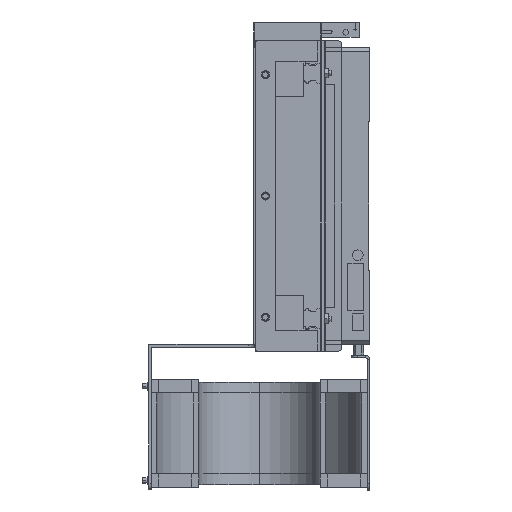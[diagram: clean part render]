
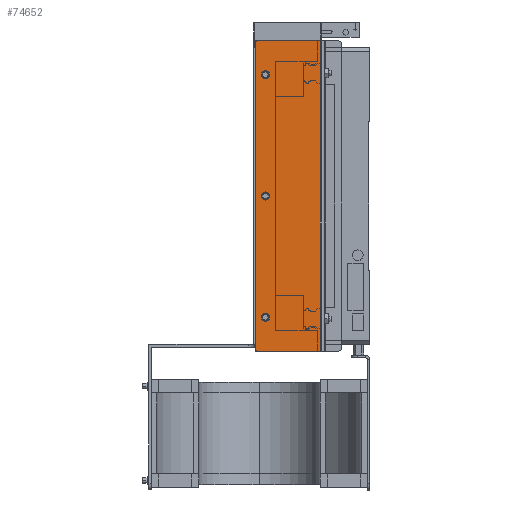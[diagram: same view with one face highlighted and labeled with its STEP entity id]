
A CAD part, left-side view. The second image highlights one B-rep face of the part: STEP entity #74652.
In plain terms, the highlighted planar face has unit normal (-1, 0, 0).
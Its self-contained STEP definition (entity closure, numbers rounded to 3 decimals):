
#798 = VERTEX_POINT ( 'NONE', #33650 ) ;
#1096 = CARTESIAN_POINT ( 'NONE',  ( -1082., 34., 115. ) ) ;
#1294 = FACE_BOUND ( 'NONE', #48361, .T. ) ;
#1703 = CARTESIAN_POINT ( 'NONE',  ( -1082., 77.5, 90. ) ) ;
#2833 = VERTEX_POINT ( 'NONE', #18067 ) ;
#2944 = CARTESIAN_POINT ( 'NONE',  ( -1082., 77.5, -93. ) ) ;
#3102 = CARTESIAN_POINT ( 'NONE',  ( -1082., 83., -113. ) ) ;
#3771 = EDGE_LOOP ( 'NONE', ( #70954, #73476, #31892, #63450, #69268, #54487 ) ) ;
#5346 = AXIS2_PLACEMENT_3D ( 'NONE', #17392, #64843, #29307 ) ;
#5468 = EDGE_CURVE ( 'NONE', #11554, #8360, #46747, .T. ) ;
#5621 = EDGE_CURVE ( 'NONE', #2833, #62026, #59771, .T. ) ;
#8360 = VERTEX_POINT ( 'NONE', #16497 ) ;
#9030 = DIRECTION ( 'NONE',  ( -1., 0., 0. ) ) ;
#10784 = CARTESIAN_POINT ( 'NONE',  ( -1082., 77.5, -87. ) ) ;
#11554 = VERTEX_POINT ( 'NONE', #52184 ) ;
#11678 = AXIS2_PLACEMENT_3D ( 'NONE', #31500, #23841, #54873 ) ;
#12492 = DIRECTION ( 'NONE',  ( 0., 1., 0. ) ) ;
#13119 = EDGE_CURVE ( 'NONE', #14386, #58829, #14368, .T. ) ;
#13189 = CARTESIAN_POINT ( 'NONE',  ( -1082., 77.5, -90. ) ) ;
#13581 = DIRECTION ( 'NONE',  ( 0., 0., 1. ) ) ;
#14368 = LINE ( 'NONE', #37078, #37603 ) ;
#14386 = VERTEX_POINT ( 'NONE', #30947 ) ;
#15637 = CARTESIAN_POINT ( 'NONE',  ( -1082., 83., 113. ) ) ;
#15769 = ORIENTED_EDGE ( 'NONE', *, *, #71747, .F. ) ;
#16358 = AXIS2_PLACEMENT_3D ( 'NONE', #1703, #48996, #13581 ) ;
#16497 = CARTESIAN_POINT ( 'NONE',  ( -1082., 77.5, 93. ) ) ;
#16716 = EDGE_LOOP ( 'NONE', ( #32530, #69878 ) ) ;
#17182 = CIRCLE ( 'NONE', #5346, 3. ) ;
#17392 = CARTESIAN_POINT ( 'NONE',  ( -1082., 77.5, 0. ) ) ;
#17504 = CIRCLE ( 'NONE', #37196, 3. ) ;
#18067 = CARTESIAN_POINT ( 'NONE',  ( -1082., 85., -113. ) ) ;
#19106 = DIRECTION ( 'NONE',  ( 0., 0., 1. ) ) ;
#20769 = DIRECTION ( 'NONE',  ( 0., 0., -1. ) ) ;
#23841 = DIRECTION ( 'NONE',  ( -1., 0., 0. ) ) ;
#24431 = EDGE_CURVE ( 'NONE', #25279, #62026, #26445, .T. ) ;
#25279 = VERTEX_POINT ( 'NONE', #38814 ) ;
#25688 = ORIENTED_EDGE ( 'NONE', *, *, #5468, .F. ) ;
#26138 = EDGE_CURVE ( 'NONE', #8360, #11554, #69483, .T. ) ;
#26445 = LINE ( 'NONE', #74576, #59880 ) ;
#26625 = CARTESIAN_POINT ( 'NONE',  ( -1082., 83., 115. ) ) ;
#27069 = DIRECTION ( 'NONE',  ( -1., 0., 0. ) ) ;
#29307 = DIRECTION ( 'NONE',  ( 0., 0., 1. ) ) ;
#29680 = VERTEX_POINT ( 'NONE', #2944 ) ;
#30230 = DIRECTION ( 'NONE',  ( -1., 0., 0. ) ) ;
#30947 = CARTESIAN_POINT ( 'NONE',  ( -1082., 37., 115. ) ) ;
#31252 = EDGE_CURVE ( 'NONE', #58829, #798, #70212, .T. ) ;
#31388 = CARTESIAN_POINT ( 'NONE',  ( -1082., 77.5, -3. ) ) ;
#31500 = CARTESIAN_POINT ( 'NONE',  ( -1082., 77.5, 90. ) ) ;
#31892 = ORIENTED_EDGE ( 'NONE', *, *, #41765, .T. ) ;
#32530 = ORIENTED_EDGE ( 'NONE', *, *, #57748, .F. ) ;
#33069 = DIRECTION ( 'NONE',  ( 0., 0., 1. ) ) ;
#33550 = DIRECTION ( 'NONE',  ( 0., 0., 1. ) ) ;
#33650 = CARTESIAN_POINT ( 'NONE',  ( -1082., 85., 113. ) ) ;
#33896 = DIRECTION ( 'NONE',  ( -1., 0., 0. ) ) ;
#34915 = AXIS2_PLACEMENT_3D ( 'NONE', #63411, #33896, #57726 ) ;
#36238 = CARTESIAN_POINT ( 'NONE',  ( -1082., 85., 115. ) ) ;
#36793 = DIRECTION ( 'NONE',  ( 0., 0., 1. ) ) ;
#37078 = CARTESIAN_POINT ( 'NONE',  ( -1082., 34., 115. ) ) ;
#37196 = AXIS2_PLACEMENT_3D ( 'NONE', #13189, #30230, #19106 ) ;
#37603 = VECTOR ( 'NONE', #12492, 1000. ) ;
#37839 = VERTEX_POINT ( 'NONE', #10784 ) ;
#38814 = CARTESIAN_POINT ( 'NONE',  ( -1082., 37., -115. ) ) ;
#39282 = FACE_BOUND ( 'NONE', #16716, .T. ) ;
#39393 = CARTESIAN_POINT ( 'NONE',  ( -1082., 37., 115. ) ) ;
#40016 = LINE ( 'NONE', #36238, #50185 ) ;
#41765 = EDGE_CURVE ( 'NONE', #798, #2833, #40016, .T. ) ;
#42679 = EDGE_CURVE ( 'NONE', #14386, #25279, #45597, .T. ) ;
#43342 = AXIS2_PLACEMENT_3D ( 'NONE', #3102, #9030, #50394 ) ;
#45430 = VERTEX_POINT ( 'NONE', #31388 ) ;
#45597 = LINE ( 'NONE', #39393, #61435 ) ;
#46747 = CIRCLE ( 'NONE', #11678, 3. ) ;
#47625 = CARTESIAN_POINT ( 'NONE',  ( -1082., 77.5, 3. ) ) ;
#47652 = EDGE_CURVE ( 'NONE', #37839, #29680, #17504, .T. ) ;
#48361 = EDGE_LOOP ( 'NONE', ( #25688, #57145 ) ) ;
#48996 = DIRECTION ( 'NONE',  ( -1., 0., 0. ) ) ;
#50163 = VERTEX_POINT ( 'NONE', #47625 ) ;
#50185 = VECTOR ( 'NONE', #71421, 1000. ) ;
#50394 = DIRECTION ( 'NONE',  ( 0., 0., 1. ) ) ;
#50455 = AXIS2_PLACEMENT_3D ( 'NONE', #1096, #54405, #36793 ) ;
#52184 = CARTESIAN_POINT ( 'NONE',  ( -1082., 77.5, 87. ) ) ;
#52282 = CIRCLE ( 'NONE', #34915, 3. ) ;
#52377 = EDGE_CURVE ( 'NONE', #45430, #50163, #17182, .T. ) ;
#52766 = EDGE_LOOP ( 'NONE', ( #54397, #15769 ) ) ;
#53572 = AXIS2_PLACEMENT_3D ( 'NONE', #15637, #57624, #33550 ) ;
#54397 = ORIENTED_EDGE ( 'NONE', *, *, #52377, .F. ) ;
#54405 = DIRECTION ( 'NONE',  ( -1., 0., 0. ) ) ;
#54487 = ORIENTED_EDGE ( 'NONE', *, *, #42679, .F. ) ;
#54873 = DIRECTION ( 'NONE',  ( 0., 0., 1. ) ) ;
#56673 = CARTESIAN_POINT ( 'NONE',  ( -1082., 77.5, -90. ) ) ;
#56783 = DIRECTION ( 'NONE',  ( 0., 1., 0. ) ) ;
#57145 = ORIENTED_EDGE ( 'NONE', *, *, #26138, .F. ) ;
#57624 = DIRECTION ( 'NONE',  ( -1., 0., 0. ) ) ;
#57726 = DIRECTION ( 'NONE',  ( 0., 0., 1. ) ) ;
#57748 = EDGE_CURVE ( 'NONE', #29680, #37839, #60422, .T. ) ;
#57984 = AXIS2_PLACEMENT_3D ( 'NONE', #56673, #27069, #33069 ) ;
#58829 = VERTEX_POINT ( 'NONE', #26625 ) ;
#59698 = FACE_BOUND ( 'NONE', #52766, .T. ) ;
#59771 = CIRCLE ( 'NONE', #43342, 2. ) ;
#59880 = VECTOR ( 'NONE', #56783, 1000. ) ;
#60422 = CIRCLE ( 'NONE', #57984, 3. ) ;
#60969 = CARTESIAN_POINT ( 'NONE',  ( -1082., 83., -115. ) ) ;
#61435 = VECTOR ( 'NONE', #20769, 1000. ) ;
#62026 = VERTEX_POINT ( 'NONE', #60969 ) ;
#63411 = CARTESIAN_POINT ( 'NONE',  ( -1082., 77.5, 0. ) ) ;
#63450 = ORIENTED_EDGE ( 'NONE', *, *, #5621, .T. ) ;
#64843 = DIRECTION ( 'NONE',  ( -1., 0., 0. ) ) ;
#67122 = FACE_OUTER_BOUND ( 'NONE', #3771, .T. ) ;
#69268 = ORIENTED_EDGE ( 'NONE', *, *, #24431, .F. ) ;
#69483 = CIRCLE ( 'NONE', #16358, 3. ) ;
#69878 = ORIENTED_EDGE ( 'NONE', *, *, #47652, .F. ) ;
#70212 = CIRCLE ( 'NONE', #53572, 2. ) ;
#70954 = ORIENTED_EDGE ( 'NONE', *, *, #13119, .T. ) ;
#71421 = DIRECTION ( 'NONE',  ( 0., 0., -1. ) ) ;
#71747 = EDGE_CURVE ( 'NONE', #50163, #45430, #52282, .T. ) ;
#72232 = PLANE ( 'NONE',  #50455 ) ;
#73476 = ORIENTED_EDGE ( 'NONE', *, *, #31252, .T. ) ;
#74576 = CARTESIAN_POINT ( 'NONE',  ( -1082., 34., -115. ) ) ;
#74652 = ADVANCED_FACE ( 'NONE', ( #59698, #67122, #39282, #1294 ), #72232, .T. ) ;
